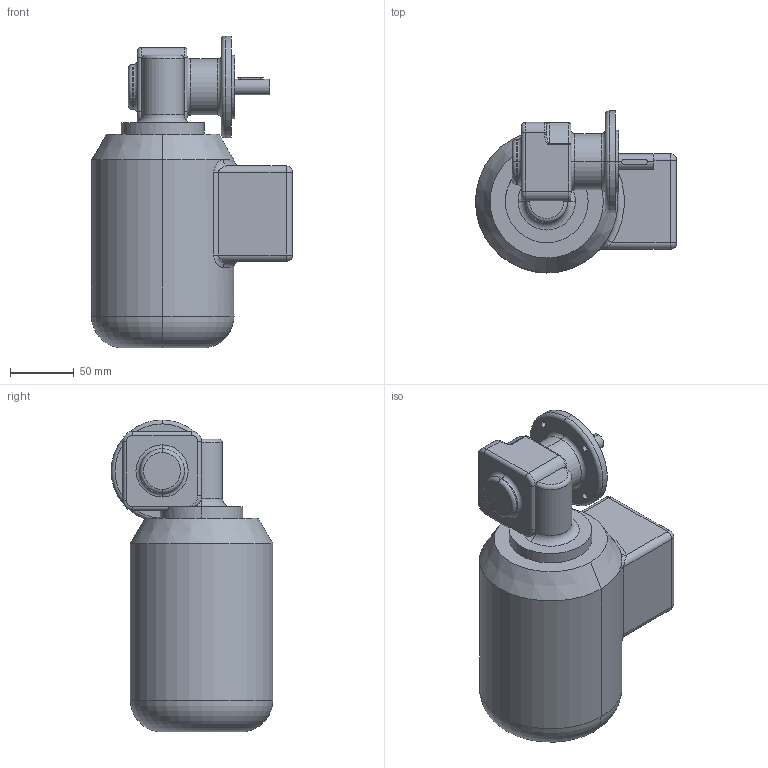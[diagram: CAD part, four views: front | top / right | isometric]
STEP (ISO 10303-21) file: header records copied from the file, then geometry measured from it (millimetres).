
FILE_DESCRIPTION (( 'STEP AP203' ), '1' );
FILE_NAME ('SN5FR-90,120W-B.STEP', '2007-09-13T06:22:25', ( ' ' ), ( ' ' ), 'SwSTEP 2.0', 'SolidWorks 2006233', '' );
FILE_SCHEMA (( 'CONFIG_CONTROL_DESIGN' ));
Length unit declared in the file: millimetre
Products named in the file (3): BG56of_Standard; SN5FR-Lose_Standard; SN5FR-90,120W-B
Assembly tree (2 placements, depth 2):
  SN5FR-90,120W-B
    SN5FR-Lose_Standard
    BG56of_Standard
Bounding box: 158 x 127 x 245 mm (x, y, z)
Volume: 2145983.7 mm3; surface area: 123053.8 mm2
Topology: 2 solids, 2 shells, 138 faces, 315 edges, 180 vertices
Faces by surface type: cylinder 61, torus 32, plane 27, sphere 8, bspline 8, cone 2
Entity records: 5048 total; most frequent: CARTESIAN_POINT 1632, DIRECTION 721, ORIENTED_EDGE 618, EDGE_CURVE 309, AXIS2_PLACEMENT_3D 309, VERTEX_POINT 180, CIRCLE 174, EDGE_LOOP 151
